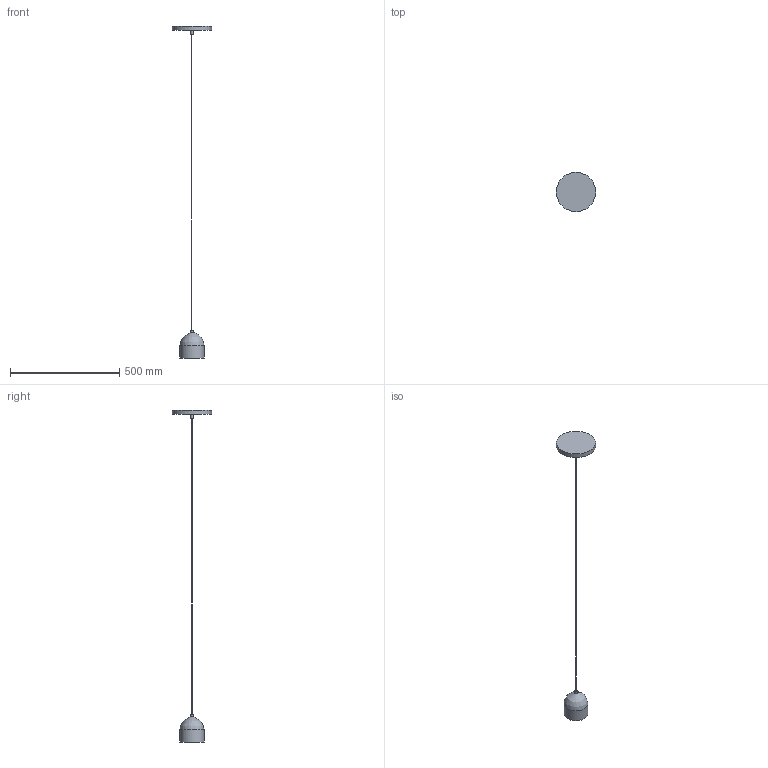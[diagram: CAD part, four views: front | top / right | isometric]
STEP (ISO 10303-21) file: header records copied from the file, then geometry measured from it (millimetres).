
FILE_DESCRIPTION(/* description */ (''),/* implementation_level */ '2;1');
FILE_NAME(/* name */ 'D:\TK Lighting\Projekty Lamp\Lampa Tempre 4449 Black.stp',/* time_stamp */ '2020-09-30T22:11:44+02:00',/* author */ ('Admin'),/* organization */ (''),/* preprocessor_version */ 'ST-DEVELOPER v16.5',/* originating_system */ 'Autodesk Inventor 2017',/* authorisation */ '');
FILE_SCHEMA (('AUTOMOTIVE_DESIGN { 1 0 10303 214 3 1 1 }'));
Length unit declared in the file: inch
Products named in the file (3): Tempre 4449 Black; Tempre 4448 Black; Zawiesie do Tempre Single
Assembly tree (2 placements, depth 2):
  Tempre 4449 Black
    Tempre 4448 Black
    Zawiesie do Tempre Single
Bounding box: 180 x 180 x 1520 mm (x, y, z)
Volume: 557358.6 mm3; surface area: 159880.4 mm2
Topology: 2 solids, 4 shells, 26 faces, 47 edges, 32 vertices
Faces by surface type: cylinder 11, plane 11, sphere 2, bspline 2
Full cylindrical faces by diameter (mm): 2 x1, 10 x3, 12.091 x1, 13 x1, 13.091 x1, 14 x1, 108 x1, 110 x1, 180 x1
Entity records: 716 total; most frequent: CARTESIAN_POINT 141, DIRECTION 110, ORIENTED_EDGE 56, AXIS2_PLACEMENT_3D 55, EDGE_LOOP 42, EDGE_CURVE 28, FACE_OUTER_BOUND 26, CIRCLE 26
